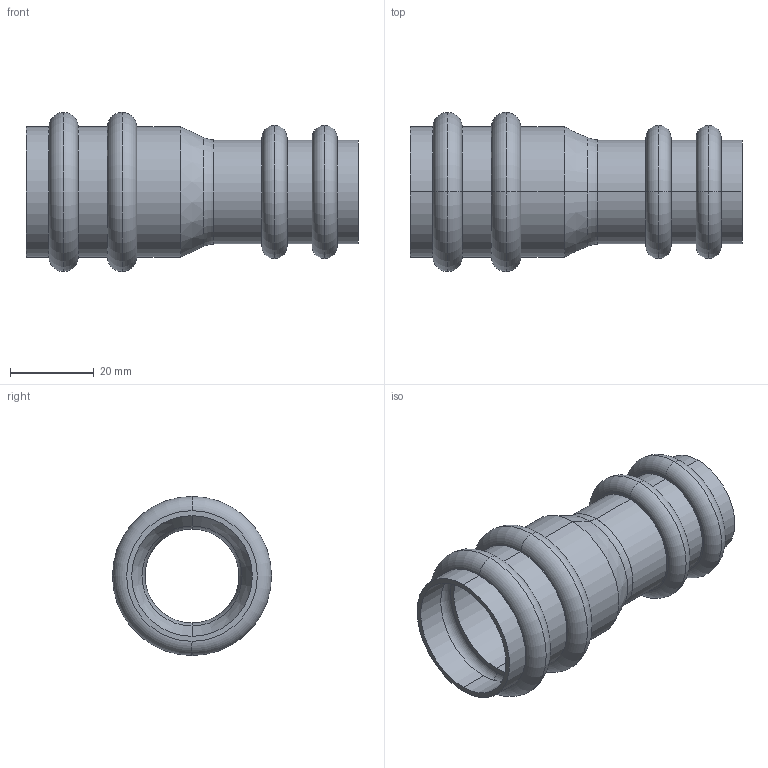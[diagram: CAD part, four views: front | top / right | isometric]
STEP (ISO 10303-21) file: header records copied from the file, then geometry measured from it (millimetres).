
FILE_DESCRIPTION(('starvars output'),'1');
FILE_NAME('cv20240422105404000012010.stp','10:54:05 2024/04/22',('Thomas Industrial Network Germany GmbH'),(' '),'Spatial InterOp 3D',' ',' ');
FILE_SCHEMA(('AUTOMOTIVE_DESIGN { 1 0 10303 214 3 1 1 }'));
Length unit declared in the file: millimetre
Products named in the file (1): 1
Bounding box: 79.5 x 38.1 x 38.1 mm (x, y, z)
Volume: 10956.6 mm3; surface area: 17949.8 mm2
Topology: 1 solids, 1 shells, 84 faces, 168 edges, 104 vertices
Faces by surface type: torus 36, cylinder 24, plane 20, cone 4
Entity records: 2940 total; most frequent: DIRECTION 478, CARTESIAN_POINT 357, ORIENTED_EDGE 336, AXIS2_PLACEMENT_3D 225, EDGE_CURVE 168, CIRCLE 140, EDGE_LOOP 104, VERTEX_POINT 104
